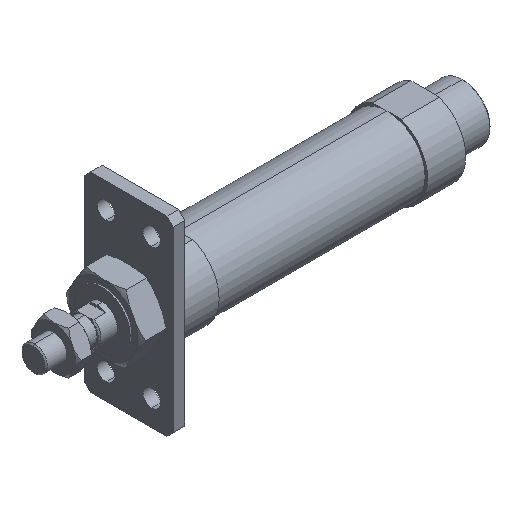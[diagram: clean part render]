
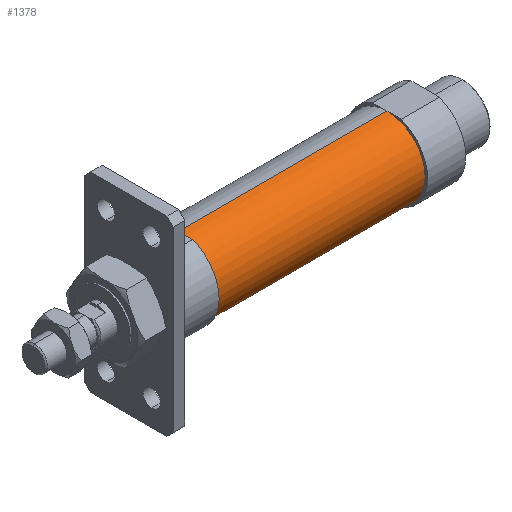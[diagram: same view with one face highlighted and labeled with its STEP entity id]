
A CAD part, isometric view. The second image highlights one B-rep face of the part: STEP entity #1378.
In plain terms, the highlighted cylindrical face has radius 15 mm (diameter 30 mm), a partial arc.
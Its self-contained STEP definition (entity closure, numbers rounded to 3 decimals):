
#57 = EDGE_LOOP ( 'NONE', ( #2357, #863, #3069, #3202 ) ) ;
#289 = CARTESIAN_POINT ( 'NONE',  ( 57., 0., -15. ) ) ;
#351 = AXIS2_PLACEMENT_3D ( 'NONE', #1082, #3868, #1090 ) ;
#361 = CIRCLE ( 'NONE', #2199, 15. ) ;
#541 = CARTESIAN_POINT ( 'NONE',  ( 57., 0., 0. ) ) ;
#680 = CARTESIAN_POINT ( 'NONE',  ( -6.469, 0., 0. ) ) ;
#689 = VERTEX_POINT ( 'NONE', #1374 ) ;
#863 = ORIENTED_EDGE ( 'NONE', *, *, #2663, .T. ) ;
#1082 = CARTESIAN_POINT ( 'NONE',  ( 139., 0., 0. ) ) ;
#1090 = DIRECTION ( 'NONE',  ( 0., 0., 1. ) ) ;
#1170 = AXIS2_PLACEMENT_3D ( 'NONE', #680, #1786, #1519 ) ;
#1249 = CYLINDRICAL_SURFACE ( 'NONE', #1170, 15. ) ;
#1374 = CARTESIAN_POINT ( 'NONE',  ( 139., 0., 15. ) ) ;
#1378 = ADVANCED_FACE ( 'NONE', ( #2525 ), #1249, .T. ) ;
#1519 = DIRECTION ( 'NONE',  ( 0., 0., 1. ) ) ;
#1786 = DIRECTION ( 'NONE',  ( -1., 0., 0. ) ) ;
#2013 = VERTEX_POINT ( 'NONE', #3474 ) ;
#2099 = DIRECTION ( 'NONE',  ( -1., 0., 0. ) ) ;
#2199 = AXIS2_PLACEMENT_3D ( 'NONE', #541, #2641, #3354 ) ;
#2357 = ORIENTED_EDGE ( 'NONE', *, *, #3552, .F. ) ;
#2504 = VERTEX_POINT ( 'NONE', #2646 ) ;
#2525 = FACE_OUTER_BOUND ( 'NONE', #57, .T. ) ;
#2535 = VECTOR ( 'NONE', #2647, 1000. ) ;
#2641 = DIRECTION ( 'NONE',  ( -1., 0., 0. ) ) ;
#2646 = CARTESIAN_POINT ( 'NONE',  ( 57., 0., 15. ) ) ;
#2647 = DIRECTION ( 'NONE',  ( -1., 0., 0. ) ) ;
#2663 = EDGE_CURVE ( 'NONE', #2013, #689, #3556, .T. ) ;
#2671 = EDGE_CURVE ( 'NONE', #2735, #2504, #361, .T. ) ;
#2735 = VERTEX_POINT ( 'NONE', #289 ) ;
#2916 = LINE ( 'NONE', #3816, #3509 ) ;
#3069 = ORIENTED_EDGE ( 'NONE', *, *, #3721, .T. ) ;
#3202 = ORIENTED_EDGE ( 'NONE', *, *, #2671, .F. ) ;
#3351 = CARTESIAN_POINT ( 'NONE',  ( -6.469, 0., 15. ) ) ;
#3354 = DIRECTION ( 'NONE',  ( 0., 0., 1. ) ) ;
#3474 = CARTESIAN_POINT ( 'NONE',  ( 139., 0., -15. ) ) ;
#3509 = VECTOR ( 'NONE', #2099, 1000. ) ;
#3552 = EDGE_CURVE ( 'NONE', #2013, #2735, #2916, .T. ) ;
#3556 = CIRCLE ( 'NONE', #351, 15. ) ;
#3721 = EDGE_CURVE ( 'NONE', #689, #2504, #3806, .T. ) ;
#3806 = LINE ( 'NONE', #3351, #2535 ) ;
#3816 = CARTESIAN_POINT ( 'NONE',  ( -6.469, 0., -15. ) ) ;
#3868 = DIRECTION ( 'NONE',  ( -1., 0., 0. ) ) ;
